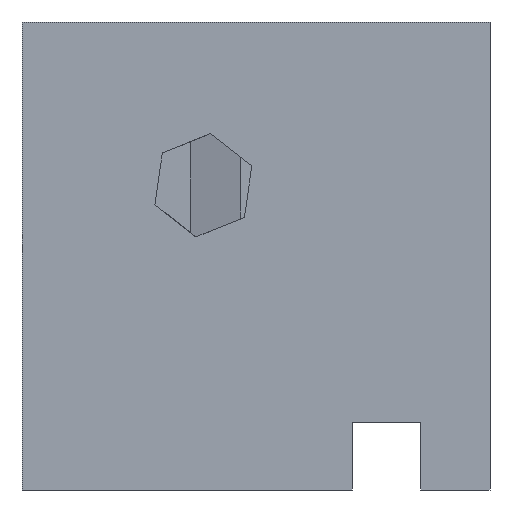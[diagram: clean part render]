
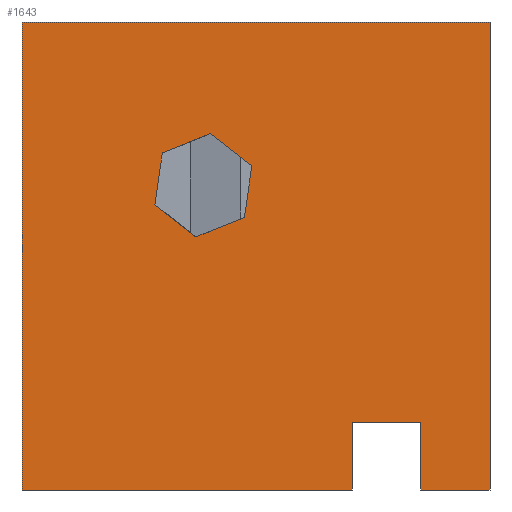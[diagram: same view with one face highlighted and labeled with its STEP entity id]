
A CAD part, left-side view. The second image highlights one B-rep face of the part: STEP entity #1643.
In plain terms, the highlighted planar face has unit normal (-1, 0, 0).
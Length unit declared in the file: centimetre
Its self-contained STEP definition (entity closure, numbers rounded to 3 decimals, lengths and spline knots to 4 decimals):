
#7 = VERTEX_POINT ( 'NONE', #971 ) ;
#14 = DIRECTION ( 'NONE',  ( 0., 0., -1. ) ) ;
#28 = CARTESIAN_POINT ( 'NONE',  ( 0., 716.0513, 609.8288 ) ) ;
#29 = ORIENTED_EDGE ( 'NONE', *, *, #296, .T. ) ;
#51 = VERTEX_POINT ( 'NONE', #103 ) ;
#79 = DIRECTION ( 'NONE',  ( 0., 0.142, -0.99 ) ) ;
#103 = CARTESIAN_POINT ( 'NONE',  ( 0., 294.1764, 0. ) ) ;
#105 = LINE ( 'NONE', #1728, #1676 ) ;
#116 = ORIENTED_EDGE ( 'NONE', *, *, #1768, .F. ) ;
#146 = DIRECTION ( 'NONE',  ( 0., 0., -1. ) ) ;
#151 = DIRECTION ( 'NONE',  ( 1., 0., 0. ) ) ;
#181 = FACE_BOUND ( 'NONE', #1812, .T. ) ;
#199 = DIRECTION ( 'NONE',  ( 0., -1., 0. ) ) ;
#200 = CARTESIAN_POINT ( 'NONE',  ( 0., 0., 1000. ) ) ;
#203 = DIRECTION ( 'NONE',  ( 0., 0.786, 0.618 ) ) ;
#205 = EDGE_CURVE ( 'NONE', #305, #1206, #105, .T. ) ;
#211 = CARTESIAN_POINT ( 'NONE',  ( 0., 508.9051, 692.7998 ) ) ;
#269 = EDGE_LOOP ( 'NONE', ( #576, #1873, #278, #708, #1646, #1052, #29, #1761 ) ) ;
#278 = ORIENTED_EDGE ( 'NONE', *, *, #705, .T. ) ;
#293 = LINE ( 'NONE', #429, #414 ) ;
#296 = EDGE_CURVE ( 'NONE', #1437, #51, #1435, .T. ) ;
#305 = VERTEX_POINT ( 'NONE', #957 ) ;
#331 = VERTEX_POINT ( 'NONE', #675 ) ;
#333 = EDGE_CURVE ( 'NONE', #629, #404, #1255, .T. ) ;
#344 = EDGE_CURVE ( 'NONE', #584, #1437, #1480, .T. ) ;
#354 = CARTESIAN_POINT ( 'NONE',  ( 0., 294.1764, 143.866 ) ) ;
#375 = DIRECTION ( 'NONE',  ( 0., -0.928, 0.372 ) ) ;
#380 = DIRECTION ( 'NONE',  ( 0., 0.928, -0.372 ) ) ;
#404 = VERTEX_POINT ( 'NONE', #448 ) ;
#414 = VECTOR ( 'NONE', #862, 100. ) ;
#417 = EDGE_CURVE ( 'NONE', #51, #595, #293, .T. ) ;
#424 = VERTEX_POINT ( 'NONE', #741 ) ;
#429 = CARTESIAN_POINT ( 'NONE',  ( 0., 294.1764, 0. ) ) ;
#448 = CARTESIAN_POINT ( 'NONE',  ( 0., 148.4211, 0. ) ) ;
#464 = CARTESIAN_POINT ( 'NONE',  ( 0., 1000., 1000. ) ) ;
#487 = FACE_OUTER_BOUND ( 'NONE', #269, .T. ) ;
#515 = DIRECTION ( 'NONE',  ( 0., -0.142, 0.99 ) ) ;
#516 = LINE ( 'NONE', #1256, #751 ) ;
#568 = ORIENTED_EDGE ( 'NONE', *, *, #1207, .F. ) ;
#576 = ORIENTED_EDGE ( 'NONE', *, *, #1806, .T. ) ;
#584 = VERTEX_POINT ( 'NONE', #464 ) ;
#591 = VECTOR ( 'NONE', #656, 100. ) ;
#595 = VERTEX_POINT ( 'NONE', #354 ) ;
#602 = DIRECTION ( 'NONE',  ( 0., -0.786, -0.618 ) ) ;
#629 = VERTEX_POINT ( 'NONE', #1648 ) ;
#656 = DIRECTION ( 'NONE',  ( 0., 0., -1. ) ) ;
#657 = VECTOR ( 'NONE', #1330, 100. ) ;
#675 = CARTESIAN_POINT ( 'NONE',  ( 0., 0., 0. ) ) ;
#692 = LINE ( 'NONE', #802, #717 ) ;
#705 = EDGE_CURVE ( 'NONE', #404, #331, #1501, .T. ) ;
#708 = ORIENTED_EDGE ( 'NONE', *, *, #1724, .F. ) ;
#717 = VECTOR ( 'NONE', #1261, 100. ) ;
#741 = CARTESIAN_POINT ( 'NONE',  ( 0., 716.0513, 609.8288 ) ) ;
#751 = VECTOR ( 'NONE', #79, 100. ) ;
#752 = VECTOR ( 'NONE', #146, 100. ) ;
#772 = PLANE ( 'NONE',  #893 ) ;
#791 = LINE ( 'NONE', #1372, #1582 ) ;
#802 = CARTESIAN_POINT ( 'NONE',  ( 0., 1000., 1000. ) ) ;
#805 = EDGE_CURVE ( 'NONE', #1209, #7, #1211, .T. ) ;
#862 = DIRECTION ( 'NONE',  ( 0., 0., 1. ) ) ;
#884 = CARTESIAN_POINT ( 'NONE',  ( 0., 1000., 1000. ) ) ;
#893 = AXIS2_PLACEMENT_3D ( 'NONE', #884, #151, #14 ) ;
#931 = LINE ( 'NONE', #1524, #1785 ) ;
#957 = CARTESIAN_POINT ( 'NONE',  ( 0., 524.7641, 582.3601 ) ) ;
#971 = CARTESIAN_POINT ( 'NONE',  ( 0., 700.1922, 720.2685 ) ) ;
#977 = DIRECTION ( 'NONE',  ( 0., -1., 0. ) ) ;
#1015 = VECTOR ( 'NONE', #199, 100. ) ;
#1037 = VERTEX_POINT ( 'NONE', #200 ) ;
#1049 = CARTESIAN_POINT ( 'NONE',  ( 0., 628.3373, 540.8746 ) ) ;
#1052 = ORIENTED_EDGE ( 'NONE', *, *, #344, .T. ) ;
#1064 = VERTEX_POINT ( 'NONE', #1049 ) ;
#1100 = CARTESIAN_POINT ( 'NONE',  ( 0., 0., 1000. ) ) ;
#1175 = EDGE_CURVE ( 'NONE', #424, #1064, #1333, .T. ) ;
#1184 = ORIENTED_EDGE ( 'NONE', *, *, #205, .F. ) ;
#1206 = VERTEX_POINT ( 'NONE', #211 ) ;
#1207 = EDGE_CURVE ( 'NONE', #7, #424, #516, .T. ) ;
#1209 = VERTEX_POINT ( 'NONE', #1246 ) ;
#1211 = LINE ( 'NONE', #1252, #1358 ) ;
#1246 = CARTESIAN_POINT ( 'NONE',  ( 0., 596.6191, 761.754 ) ) ;
#1252 = CARTESIAN_POINT ( 'NONE',  ( 0., 596.6191, 761.754 ) ) ;
#1255 = LINE ( 'NONE', #1848, #657 ) ;
#1256 = CARTESIAN_POINT ( 'NONE',  ( 0., 700.1922, 720.2685 ) ) ;
#1261 = DIRECTION ( 'NONE',  ( 0., -1., 0. ) ) ;
#1278 = DIRECTION ( 'NONE',  ( 0., -1., 0. ) ) ;
#1321 = VECTOR ( 'NONE', #375, 100. ) ;
#1330 = DIRECTION ( 'NONE',  ( 0., 0., -1. ) ) ;
#1333 = LINE ( 'NONE', #28, #1674 ) ;
#1334 = ORIENTED_EDGE ( 'NONE', *, *, #1175, .F. ) ;
#1358 = VECTOR ( 'NONE', #380, 100. ) ;
#1372 = CARTESIAN_POINT ( 'NONE',  ( 0., 148.4211, 143.866 ) ) ;
#1428 = VECTOR ( 'NONE', #1278, 100. ) ;
#1435 = LINE ( 'NONE', #1593, #1428 ) ;
#1437 = VERTEX_POINT ( 'NONE', #1557 ) ;
#1443 = EDGE_CURVE ( 'NONE', #584, #1037, #692, .T. ) ;
#1480 = LINE ( 'NONE', #1600, #752 ) ;
#1501 = LINE ( 'NONE', #1522, #1015 ) ;
#1522 = CARTESIAN_POINT ( 'NONE',  ( 0., 1000., 0. ) ) ;
#1524 = CARTESIAN_POINT ( 'NONE',  ( 0., 508.9051, 692.7998 ) ) ;
#1555 = LINE ( 'NONE', #1100, #591 ) ;
#1557 = CARTESIAN_POINT ( 'NONE',  ( 0., 1000., 0. ) ) ;
#1582 = VECTOR ( 'NONE', #977, 100. ) ;
#1593 = CARTESIAN_POINT ( 'NONE',  ( 0., 1000., 0. ) ) ;
#1595 = ORIENTED_EDGE ( 'NONE', *, *, #805, .F. ) ;
#1600 = CARTESIAN_POINT ( 'NONE',  ( 0., 1000., 1000. ) ) ;
#1643 = ADVANCED_FACE ( 'NONE', ( #181, #487 ), #772, .F. ) ;
#1646 = ORIENTED_EDGE ( 'NONE', *, *, #1443, .F. ) ;
#1648 = CARTESIAN_POINT ( 'NONE',  ( 0., 148.4211, 143.866 ) ) ;
#1674 = VECTOR ( 'NONE', #602, 100. ) ;
#1676 = VECTOR ( 'NONE', #515, 100. ) ;
#1697 = CARTESIAN_POINT ( 'NONE',  ( 0., 628.3373, 540.8746 ) ) ;
#1724 = EDGE_CURVE ( 'NONE', #1037, #331, #1555, .T. ) ;
#1728 = CARTESIAN_POINT ( 'NONE',  ( 0., 524.7641, 582.3601 ) ) ;
#1761 = ORIENTED_EDGE ( 'NONE', *, *, #417, .T. ) ;
#1768 = EDGE_CURVE ( 'NONE', #1064, #305, #1849, .T. ) ;
#1785 = VECTOR ( 'NONE', #203, 100. ) ;
#1800 = EDGE_CURVE ( 'NONE', #1206, #1209, #931, .T. ) ;
#1806 = EDGE_CURVE ( 'NONE', #595, #629, #791, .T. ) ;
#1812 = EDGE_LOOP ( 'NONE', ( #568, #1595, #1874, #1184, #116, #1334 ) ) ;
#1848 = CARTESIAN_POINT ( 'NONE',  ( 0., 148.4211, 0. ) ) ;
#1849 = LINE ( 'NONE', #1697, #1321 ) ;
#1873 = ORIENTED_EDGE ( 'NONE', *, *, #333, .T. ) ;
#1874 = ORIENTED_EDGE ( 'NONE', *, *, #1800, .F. ) ;
